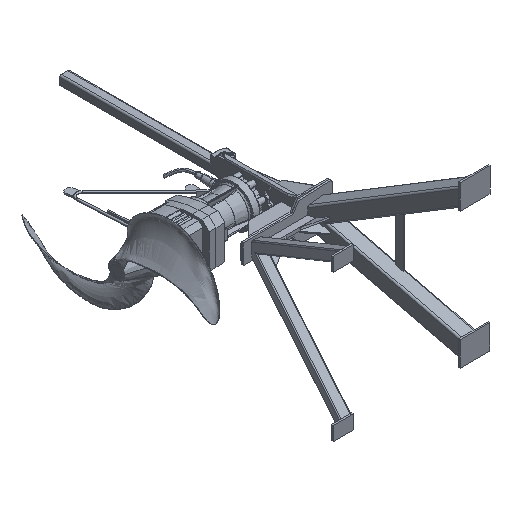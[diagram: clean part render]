
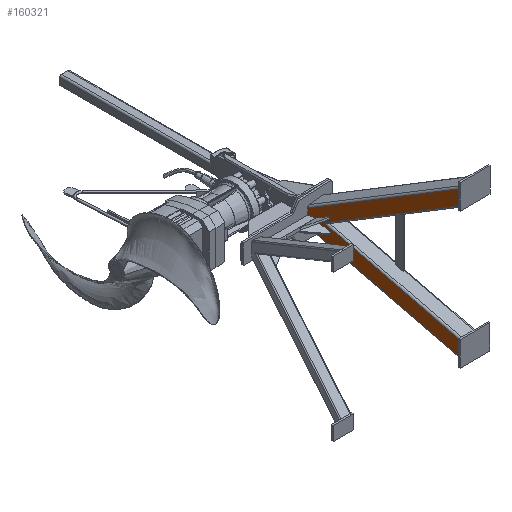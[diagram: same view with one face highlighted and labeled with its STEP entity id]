
A CAD part, isometric view. The second image highlights one B-rep face of the part: STEP entity #160321.
In plain terms, the highlighted planar face has unit normal (-0.976, -0.216, 0).
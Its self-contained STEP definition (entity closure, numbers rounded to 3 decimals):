
#424 = VECTOR ( 'NONE', #135577, 1000. ) ;
#1430 = CARTESIAN_POINT ( 'NONE',  ( 546.145, -1048.306, -355.724 ) ) ;
#11689 = EDGE_LOOP ( 'NONE', ( #58566, #170834, #36760, #94906, #55447, #42055, #155445, #58987, #62256, #52779, #38086 ) ) ;
#13129 = CARTESIAN_POINT ( 'NONE',  ( 377.151, -286.026, 795.068 ) ) ;
#15546 = VERTEX_POINT ( 'NONE', #22751 ) ;
#15618 = LINE ( 'NONE', #38840, #166905 ) ;
#19105 = EDGE_CURVE ( 'NONE', #125476, #43427, #39366, .T. ) ;
#19748 = VECTOR ( 'NONE', #69838, 1000. ) ;
#20130 = CARTESIAN_POINT ( 'NONE',  ( 377.151, -286.026, -47.948 ) ) ;
#22219 = LINE ( 'NONE', #187243, #95508 ) ;
#22751 = CARTESIAN_POINT ( 'NONE',  ( 377.151, -286.026, -10.03 ) ) ;
#27619 = VECTOR ( 'NONE', #58935, 1000. ) ;
#32680 = CARTESIAN_POINT ( 'NONE',  ( 546.145, -1048.306, -445.779 ) ) ;
#33153 = CARTESIAN_POINT ( 'NONE',  ( 386.046, -326.146, 10.03 ) ) ;
#36760 = ORIENTED_EDGE ( 'NONE', *, *, #102798, .F. ) ;
#37301 = VERTEX_POINT ( 'NONE', #142672 ) ;
#38086 = ORIENTED_EDGE ( 'NONE', *, *, #170935, .T. ) ;
#38840 = CARTESIAN_POINT ( 'NONE',  ( 364.061, -226.983, -10.03 ) ) ;
#39366 = LINE ( 'NONE', #33153, #424 ) ;
#42055 = ORIENTED_EDGE ( 'NONE', *, *, #111235, .T. ) ;
#43354 = LINE ( 'NONE', #91863, #151073 ) ;
#43427 = VERTEX_POINT ( 'NONE', #168236 ) ;
#44176 = CARTESIAN_POINT ( 'NONE',  ( 694.518, -1717.573, 795.068 ) ) ;
#46130 = CARTESIAN_POINT ( 'NONE',  ( 377.151, -286.026, 10.03 ) ) ;
#48319 = DIRECTION ( 'NONE',  ( 0.193, -0.87, -0.454 ) ) ;
#49330 = LINE ( 'NONE', #107588, #161568 ) ;
#52779 = ORIENTED_EDGE ( 'NONE', *, *, #89361, .T. ) ;
#53607 = DIRECTION ( 'NONE',  ( 0.216, -0.976, 0. ) ) ;
#54197 = FACE_OUTER_BOUND ( 'NONE', #11689, .T. ) ;
#55447 = ORIENTED_EDGE ( 'NONE', *, *, #168168, .T. ) ;
#58566 = ORIENTED_EDGE ( 'NONE', *, *, #131606, .T. ) ;
#58685 = LINE ( 'NONE', #142778, #19748 ) ;
#58793 = VERTEX_POINT ( 'NONE', #20130 ) ;
#58935 = DIRECTION ( 'NONE',  ( -0.193, 0.87, -0.454 ) ) ;
#58987 = ORIENTED_EDGE ( 'NONE', *, *, #126564, .F. ) ;
#62256 = ORIENTED_EDGE ( 'NONE', *, *, #152673, .F. ) ;
#63591 = EDGE_CURVE ( 'NONE', #15546, #58793, #49330, .T. ) ;
#65236 = VECTOR ( 'NONE', #93040, 1000. ) ;
#68201 = VERTEX_POINT ( 'NONE', #144217 ) ;
#69838 = DIRECTION ( 'NONE',  ( 0.216, -0.976, 0. ) ) ;
#70085 = DIRECTION ( 'NONE',  ( -0.193, 0.87, -0.454 ) ) ;
#76557 = VERTEX_POINT ( 'NONE', #32680 ) ;
#78360 = CARTESIAN_POINT ( 'NONE',  ( 233.591, 361.532, 380.066 ) ) ;
#79529 = VECTOR ( 'NONE', #92474, 1000. ) ;
#82155 = DIRECTION ( 'NONE',  ( 0.976, 0.216, 0. ) ) ;
#89361 = EDGE_CURVE ( 'NONE', #37301, #117401, #105571, .T. ) ;
#90869 = VECTOR ( 'NONE', #114999, 1000. ) ;
#91863 = CARTESIAN_POINT ( 'NONE',  ( 225.706, 397.097, 308.571 ) ) ;
#92474 = DIRECTION ( 'NONE',  ( 0., 0., 1. ) ) ;
#93040 = DIRECTION ( 'NONE',  ( 0.193, -0.87, -0.454 ) ) ;
#94906 = ORIENTED_EDGE ( 'NONE', *, *, #63591, .T. ) ;
#95413 = LINE ( 'NONE', #13129, #90869 ) ;
#95508 = VECTOR ( 'NONE', #157732, 1000. ) ;
#102798 = EDGE_CURVE ( 'NONE', #15546, #43427, #15618, .T. ) ;
#105421 = CARTESIAN_POINT ( 'NONE',  ( 546.145, -1048.306, 355.724 ) ) ;
#105571 = LINE ( 'NONE', #44176, #27619 ) ;
#106659 = VERTEX_POINT ( 'NONE', #105421 ) ;
#107105 = CARTESIAN_POINT ( 'NONE',  ( 386.046, -326.146, 10.03 ) ) ;
#107588 = CARTESIAN_POINT ( 'NONE',  ( 377.151, -286.026, 380.066 ) ) ;
#110948 = PLANE ( 'NONE',  #171148 ) ;
#111235 = EDGE_CURVE ( 'NONE', #76557, #165688, #157337, .T. ) ;
#113960 = EDGE_CURVE ( 'NONE', #68201, #165688, #182093, .T. ) ;
#114979 = VERTEX_POINT ( 'NONE', #46130 ) ;
#114999 = DIRECTION ( 'NONE',  ( 0., 0., -1. ) ) ;
#117401 = VERTEX_POINT ( 'NONE', #136577 ) ;
#121666 = DIRECTION ( 'NONE',  ( 0., 0., -1. ) ) ;
#125476 = VERTEX_POINT ( 'NONE', #107105 ) ;
#126564 = EDGE_CURVE ( 'NONE', #106659, #68201, #142042, .T. ) ;
#131606 = EDGE_CURVE ( 'NONE', #114979, #125476, #58685, .T. ) ;
#135577 = DIRECTION ( 'NONE',  ( 0., 0., -1. ) ) ;
#136577 = CARTESIAN_POINT ( 'NONE',  ( 377.151, -286.026, 47.948 ) ) ;
#137466 = VECTOR ( 'NONE', #70085, 1000. ) ;
#142042 = LINE ( 'NONE', #172492, #137466 ) ;
#142672 = CARTESIAN_POINT ( 'NONE',  ( 546.145, -1048.306, 445.779 ) ) ;
#142778 = CARTESIAN_POINT ( 'NONE',  ( 364.061, -226.983, 10.03 ) ) ;
#144217 = CARTESIAN_POINT ( 'NONE',  ( 395.038, -366.707, 0. ) ) ;
#151073 = VECTOR ( 'NONE', #48319, 1000. ) ;
#152673 = EDGE_CURVE ( 'NONE', #37301, #106659, #22219, .T. ) ;
#155445 = ORIENTED_EDGE ( 'NONE', *, *, #113960, .F. ) ;
#157337 = LINE ( 'NONE', #180224, #79529 ) ;
#157732 = DIRECTION ( 'NONE',  ( 0., 0., -1. ) ) ;
#160321 = ADVANCED_FACE ( 'NONE', ( #54197 ), #110948, .F. ) ;
#161568 = VECTOR ( 'NONE', #121666, 1000. ) ;
#165688 = VERTEX_POINT ( 'NONE', #1430 ) ;
#166905 = VECTOR ( 'NONE', #53607, 1000. ) ;
#168168 = EDGE_CURVE ( 'NONE', #58793, #76557, #43354, .T. ) ;
#168236 = CARTESIAN_POINT ( 'NONE',  ( 386.046, -326.146, -10.03 ) ) ;
#169856 = CARTESIAN_POINT ( 'NONE',  ( 694.518, -1717.573, 795.068 ) ) ;
#170834 = ORIENTED_EDGE ( 'NONE', *, *, #19105, .T. ) ;
#170935 = EDGE_CURVE ( 'NONE', #117401, #114979, #95413, .T. ) ;
#171148 = AXIS2_PLACEMENT_3D ( 'NONE', #169856, #82155, #184630 ) ;
#172492 = CARTESIAN_POINT ( 'NONE',  ( 702.402, -1753.138, 723.573 ) ) ;
#180224 = CARTESIAN_POINT ( 'NONE',  ( 546.145, -1048.306, 380.066 ) ) ;
#182093 = LINE ( 'NONE', #78360, #65236 ) ;
#184630 = DIRECTION ( 'NONE',  ( -0.098, 0.443, 0.891 ) ) ;
#187243 = CARTESIAN_POINT ( 'NONE',  ( 546.145, -1048.306, 857.734 ) ) ;
